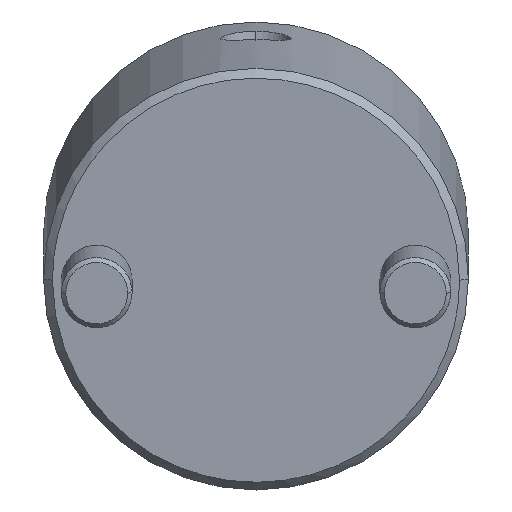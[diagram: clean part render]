
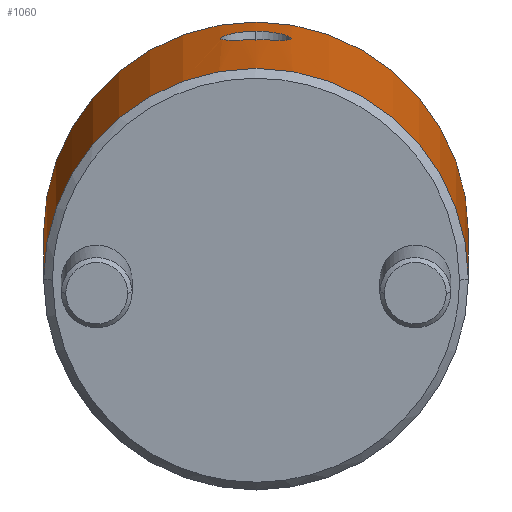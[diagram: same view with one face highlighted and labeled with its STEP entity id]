
A CAD part, front view. The second image highlights one B-rep face of the part: STEP entity #1060.
In plain terms, the highlighted cylindrical face has radius 24 mm (diameter 48 mm), a partial arc.
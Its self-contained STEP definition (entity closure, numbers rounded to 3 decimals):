
#805=CARTESIAN_POINT('Vertex',(0.,24.,1.)) ;
#808=CARTESIAN_POINT('Axis2P3D Location',(0.,0.,1.)) ;
#812=CARTESIAN_POINT('Vertex',(0.,-24.,1.)) ;
#964=CARTESIAN_POINT('Axis2P3D Location',(0.,0.,-2.25)) ;
#969=CARTESIAN_POINT('Line Origine',(0.,24.,-2.25)) ;
#973=CARTESIAN_POINT('Vertex',(0.,24.,44.)) ;
#976=CARTESIAN_POINT('Axis2P3D Location',(0.,0.,44.)) ;
#980=CARTESIAN_POINT('Vertex',(0.,-24.,44.)) ;
#983=CARTESIAN_POINT('Line Origine',(0.,-24.,-2.25)) ;
#995=CARTESIAN_POINT('Control Point',(24.,0.,35.463)) ;
#996=CARTESIAN_POINT('Control Point',(24.,0.584,35.463)) ;
#997=CARTESIAN_POINT('Control Point',(23.982,1.157,35.355)) ;
#998=CARTESIAN_POINT('Control Point',(23.947,1.713,35.137)) ;
#999=CARTESIAN_POINT('Control Point',(23.887,2.381,34.725)) ;
#1000=CARTESIAN_POINT('Control Point',(23.821,2.93,34.165)) ;
#1001=CARTESIAN_POINT('Control Point',(23.804,3.062,34.013)) ;
#1002=CARTESIAN_POINT('Control Point',(23.756,3.424,33.542)) ;
#1003=CARTESIAN_POINT('Control Point',(23.714,3.697,33.01)) ;
#1004=CARTESIAN_POINT('Control Point',(23.692,3.834,32.642)) ;
#1005=CARTESIAN_POINT('Control Point',(23.669,3.973,32.066)) ;
#1006=CARTESIAN_POINT('Control Point',(23.663,4.006,31.473)) ;
#1007=CARTESIAN_POINT('Control Point',(23.663,4.005,31.28)) ;
#1008=CARTESIAN_POINT('Control Point',(23.668,3.98,30.889)) ;
#1009=CARTESIAN_POINT('Control Point',(23.68,3.909,30.506)) ;
#1010=CARTESIAN_POINT('Control Point',(23.687,3.862,30.318)) ;
#1011=CARTESIAN_POINT('Control Point',(23.716,3.686,29.76)) ;
#1012=CARTESIAN_POINT('Control Point',(23.758,3.411,29.243)) ;
#1013=CARTESIAN_POINT('Control Point',(23.79,3.185,28.922)) ;
#1014=CARTESIAN_POINT('Control Point',(23.848,2.725,28.413)) ;
#1015=CARTESIAN_POINT('Control Point',(23.904,2.168,28.015)) ;
#1016=CARTESIAN_POINT('Control Point',(23.926,1.913,27.866)) ;
#1017=CARTESIAN_POINT('Control Point',(23.963,1.393,27.623)) ;
#1018=CARTESIAN_POINT('Control Point',(23.988,0.837,27.476)) ;
#1019=CARTESIAN_POINT('Control Point',(23.996,0.559,27.427)) ;
#1020=CARTESIAN_POINT('Control Point',(24.,0.28,27.403)) ;
#1021=CARTESIAN_POINT('Control Point',(24.,0.,27.403)) ;
#1022=CARTESIAN_POINT('Vertex',(24.,0.,35.463)) ;
#1024=CARTESIAN_POINT('Vertex',(24.,0.,27.403)) ;
#1028=CARTESIAN_POINT('Control Point',(24.,0.,27.403)) ;
#1029=CARTESIAN_POINT('Control Point',(24.,-0.392,27.403)) ;
#1030=CARTESIAN_POINT('Control Point',(23.992,-0.781,27.45)) ;
#1031=CARTESIAN_POINT('Control Point',(23.976,-1.167,27.545)) ;
#1032=CARTESIAN_POINT('Control Point',(23.914,-2.177,27.93)) ;
#1033=CARTESIAN_POINT('Control Point',(23.818,-3.018,28.63)) ;
#1034=CARTESIAN_POINT('Control Point',(23.755,-3.444,29.186)) ;
#1035=CARTESIAN_POINT('Control Point',(23.68,-3.909,30.167)) ;
#1036=CARTESIAN_POINT('Control Point',(23.66,-4.026,31.251)) ;
#1037=CARTESIAN_POINT('Control Point',(23.661,-4.02,31.646)) ;
#1038=CARTESIAN_POINT('Control Point',(23.675,-3.941,32.234)) ;
#1039=CARTESIAN_POINT('Control Point',(23.704,-3.76,32.792)) ;
#1040=CARTESIAN_POINT('Control Point',(23.715,-3.688,32.977)) ;
#1041=CARTESIAN_POINT('Control Point',(23.741,-3.522,33.336)) ;
#1042=CARTESIAN_POINT('Control Point',(23.77,-3.314,33.674)) ;
#1043=CARTESIAN_POINT('Control Point',(23.786,-3.201,33.835)) ;
#1044=CARTESIAN_POINT('Control Point',(23.818,-2.954,34.146)) ;
#1045=CARTESIAN_POINT('Control Point',(23.851,-2.673,34.423)) ;
#1046=CARTESIAN_POINT('Control Point',(23.868,-2.525,34.552)) ;
#1047=CARTESIAN_POINT('Control Point',(23.907,-2.138,34.85)) ;
#1048=CARTESIAN_POINT('Control Point',(23.941,-1.711,35.086)) ;
#1049=CARTESIAN_POINT('Control Point',(23.959,-1.444,35.203)) ;
#1050=CARTESIAN_POINT('Control Point',(23.982,-0.997,35.352)) ;
#1051=CARTESIAN_POINT('Control Point',(23.995,-0.535,35.432)) ;
#1052=CARTESIAN_POINT('Control Point',(23.998,-0.357,35.453)) ;
#1053=CARTESIAN_POINT('Control Point',(24.,-0.179,35.463)) ;
#1054=CARTESIAN_POINT('Control Point',(24.,0.,35.463)) ;
#809=DIRECTION('Axis2P3D Direction',(0.,0.,1.)) ;
#965=DIRECTION('Axis2P3D Direction',(0.,-0.,1.)) ;
#966=DIRECTION('Axis2P3D XDirection',(0.,-1.,0.)) ;
#970=DIRECTION('Vector Direction',(0.,0.,1.)) ;
#977=DIRECTION('Axis2P3D Direction',(0.,-0.,1.)) ;
#984=DIRECTION('Vector Direction',(0.,0.,1.)) ;
#810=AXIS2_PLACEMENT_3D('Circle Axis2P3D',#808,#809,$) ;
#967=AXIS2_PLACEMENT_3D('Cylinder Axis2P3D',#964,#965,#966) ;
#978=AXIS2_PLACEMENT_3D('Circle Axis2P3D',#976,#977,$) ;
#989=ORIENTED_EDGE('',*,*,#975,.F.) ;
#990=ORIENTED_EDGE('',*,*,#982,.T.) ;
#991=ORIENTED_EDGE('',*,*,#987,.T.) ;
#992=ORIENTED_EDGE('',*,*,#814,.F.) ;
#1057=ORIENTED_EDGE('',*,*,#1026,.T.) ;
#1058=ORIENTED_EDGE('',*,*,#1055,.T.) ;
#1059=FACE_BOUND('',#1056,.T.) ;
#971=VECTOR('Line Direction',#970,1.) ;
#985=VECTOR('Line Direction',#984,1.) ;
#1060=ADVANCED_FACE('MANIFOLD_SOLID_BREP #1138',(#993,#1059),#968,.T.) ;
#994=B_SPLINE_CURVE_WITH_KNOTS('',5,(#995,#996,#997,#998,#999,#1000,#1001,#1002,#1003,#1004,#1005,#1006,#1007,#1008,#1009,#1010,#1011,#1012,#1013,#1014,#1015,#1016,#1017,#1018,#1019,#1020,#1021),.UNSPECIFIED.,.F.,.U.,(6,3,3,3,3,3,3,3,6),(0.,4.14,5.526,8.298,9.663,11.034,13.808,15.892,17.878),.UNSPECIFIED.) ;
#1027=B_SPLINE_CURVE_WITH_KNOTS('',5,(#1028,#1029,#1030,#1031,#1032,#1033,#1034,#1035,#1036,#1037,#1038,#1039,#1040,#1041,#1042,#1043,#1044,#1045,#1046,#1047,#1048,#1049,#1050,#1051,#1052,#1053,#1054),.UNSPECIFIED.,.F.,.U.,(6,3,3,3,3,3,3,3,6),(0.,2.779,7.629,10.375,11.764,13.152,14.543,16.62,17.888),.UNSPECIFIED.) ;
#811=CIRCLE('generated circle',#810,24.) ;
#979=CIRCLE('generated circle',#978,24.) ;
#968=CYLINDRICAL_SURFACE('generated cylinder',#967,24.) ;
#814=EDGE_CURVE('',#806,#813,#811,.F.) ;
#975=EDGE_CURVE('',#974,#806,#972,.F.) ;
#982=EDGE_CURVE('',#974,#981,#979,.F.) ;
#987=EDGE_CURVE('',#981,#813,#986,.F.) ;
#1026=EDGE_CURVE('',#1023,#1025,#994,.T.) ;
#1055=EDGE_CURVE('',#1025,#1023,#1027,.T.) ;
#988=EDGE_LOOP('',(#989,#990,#991,#992)) ;
#1056=EDGE_LOOP('',(#1057,#1058)) ;
#993=FACE_OUTER_BOUND('',#988,.T.) ;
#972=LINE('Line',#969,#971) ;
#986=LINE('Line',#983,#985) ;
#806=VERTEX_POINT('',#805) ;
#813=VERTEX_POINT('',#812) ;
#974=VERTEX_POINT('',#973) ;
#981=VERTEX_POINT('',#980) ;
#1023=VERTEX_POINT('',#1022) ;
#1025=VERTEX_POINT('',#1024) ;
